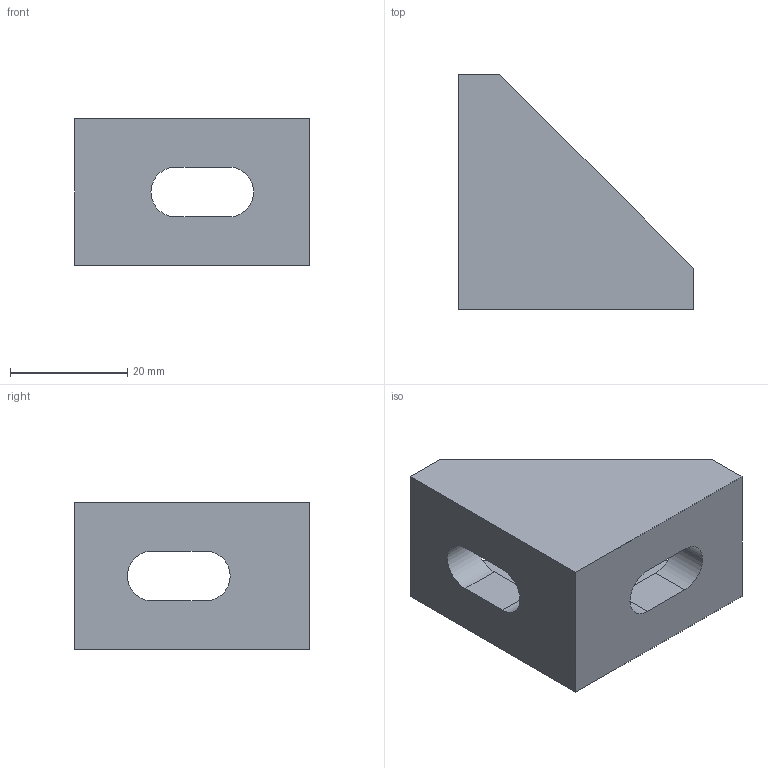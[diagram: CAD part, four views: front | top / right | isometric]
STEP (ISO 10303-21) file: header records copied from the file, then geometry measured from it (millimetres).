
FILE_DESCRIPTION (( 'STEP AP203' ), '1' );
FILE_NAME ('084.305.002.STEP', '2013-01-23T08:14:29', ( 'Alusic' ), ( 'Alusic' ), 'SwSTEP 2.0', 'SolidWorks 2011', '' );
FILE_SCHEMA (( 'CONFIG_CONTROL_DESIGN' ));
Length unit declared in the file: millimetre
Products named in the file (1): 084.305.002
Bounding box: 40 x 40 x 25 mm (x, y, z)
Volume: 15265.6 mm3; surface area: 7138.2 mm2
Topology: 1 solids, 1 shells, 21 faces, 53 edges, 34 vertices
Faces by surface type: plane 16, cylinder 5
Entity records: 710 total; most frequent: CARTESIAN_POINT 109, DIRECTION 107, ORIENTED_EDGE 106, EDGE_CURVE 53, VECTOR 43, LINE 43, VERTEX_POINT 34, AXIS2_PLACEMENT_3D 32
